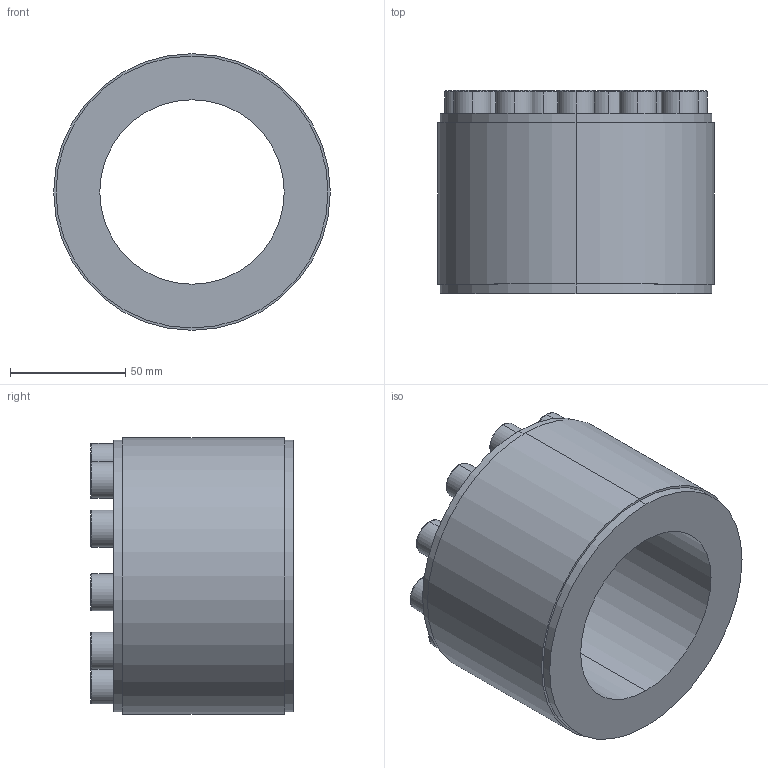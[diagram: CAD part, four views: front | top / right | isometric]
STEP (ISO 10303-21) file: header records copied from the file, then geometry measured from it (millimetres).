
FILE_DESCRIPTION (( 'STEP AP203' ), '1' );
FILE_NAME ('PL-D1 80-120.STEP', '2021-10-23T00:16:50', ( '' ), ( '' ), 'SwSTEP 2.0', 'SolidWorks 2018', '' );
FILE_SCHEMA (( 'CONFIG_CONTROL_DESIGN' ));
Length unit declared in the file: millimetre
Products named in the file (1): PL-D1 80-120
Bounding box: 120 x 88 x 120 mm (x, y, z)
Volume: 506136.8 mm3; surface area: 68458.5 mm2
Topology: 1 solids, 1 shells, 144 faces, 332 edges, 214 vertices
Faces by surface type: plane 92, cylinder 30, torus 22
Entity records: 4145 total; most frequent: DIRECTION 726, CARTESIAN_POINT 691, ORIENTED_EDGE 664, EDGE_CURVE 332, AXIS2_PLACEMENT_3D 249, LINE 228, VECTOR 228, VERTEX_POINT 214
